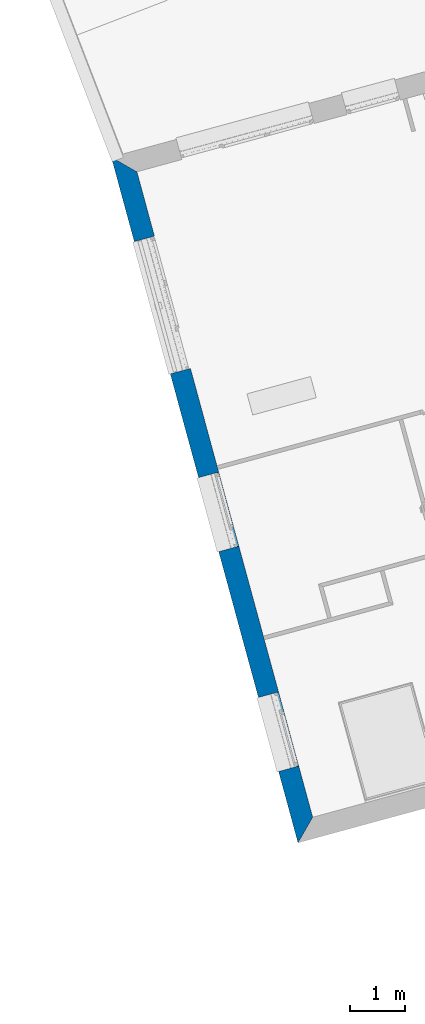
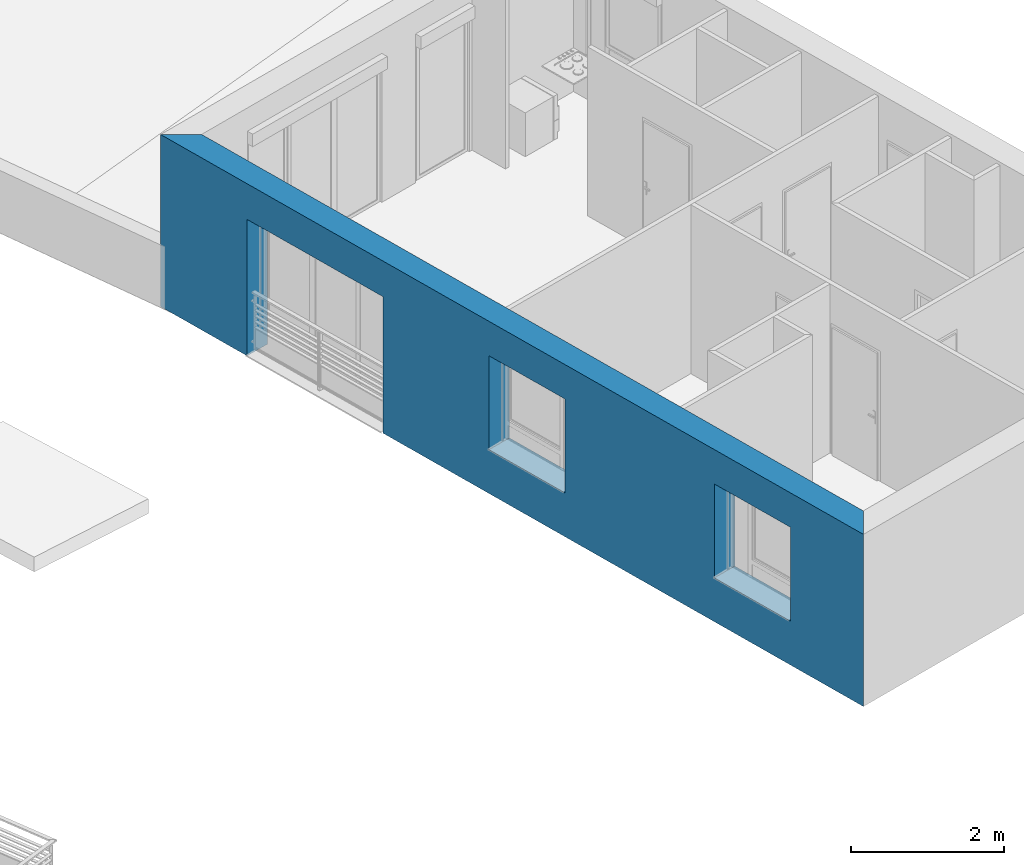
# One storey, part 61 of 121: 1 wall, 3 openings.
"""IFC2X3 building model written with IfcOpenShell, lengths in metres."""

from ifc_helpers import new_model, entity, si_unit, converted_unit, derived_unit, money_unit, direction, frame, origin_with_axes, place, context, subcontext, project, spatial, polyline, outline, extrude, faceted_brep, material, layer, layer_set, layer_usage, type_object, element, save


model = new_model("IFC2X3")

# Units and contexts
model_context = context("Model", 3, precision=1e-05, world=origin_with_axes(), true_north=direction((0.0, 1.0)))
body_context = subcontext(model_context, "Body", "Model", "MODEL_VIEW")
ifc_project = project(units=[si_unit("LENGTHUNIT", "METRE"), si_unit("AREAUNIT", "SQUARE_METRE"), si_unit("VOLUMEUNIT", "CUBIC_METRE"), converted_unit("PLANEANGLEUNIT", "DEGREE", entity("IfcPlaneAngleMeasure", 0.0174532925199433), si_unit("PLANEANGLEUNIT", "RADIAN"), dimensions=[0, 0, 0, 0, 0, 0, 0]), money_unit("CHF"), converted_unit("TIMEUNIT", "Year", entity("IfcTimeMeasure", 31557600.0), si_unit("TIMEUNIT", "SECOND"), dimensions=[0, 0, 1, 0, 0, 0, 0]), si_unit("MASSUNIT", "GRAM", prefix="KILO"), si_unit("THERMODYNAMICTEMPERATUREUNIT", "DEGREE_CELSIUS"), si_unit("LUMINOUSINTENSITYUNIT", "LUMEN"), si_unit("ENERGYUNIT", "JOULE", prefix="MEGA"), derived_unit("THERMALCONDUCTANCEUNIT", [(si_unit("POWERUNIT", "WATT"), 1), (si_unit("LENGTHUNIT", "METRE"), -1), (si_unit("THERMODYNAMICTEMPERATUREUNIT", "KELVIN"), -1)]), derived_unit("SPECIFICHEATCAPACITYUNIT", [(si_unit("ENERGYUNIT", "JOULE"), 1), (si_unit("MASSUNIT", "GRAM", prefix="KILO"), -1), (si_unit("THERMODYNAMICTEMPERATUREUNIT", "KELVIN"), -1)]), derived_unit("MASSDENSITYUNIT", [(si_unit("MASSUNIT", "GRAM", prefix="KILO"), 1), (si_unit("VOLUMEUNIT", "CUBIC_METRE"), -1)])], contexts=[model_context])

# Site, building, storey
site_placement = place(None, origin_with_axes())
site = spatial("IfcSite", under=ifc_project, at=site_placement, Name="Site", CompositionType="ELEMENT")
building_placement = place(site_placement, origin_with_axes())
building = spatial("IfcBuilding", under=site, at=building_placement, Name="Bâtiment", CompositionType="ELEMENT")
storey_placement = place(building_placement, frame((0.0, 0.0, 2.75), z_axis=(0.0, 0.0, 1.0), x_axis=(1.0, 0.0, 0.0)))
storey = spatial("IfcBuildingStorey", under=building, at=storey_placement, Name="Etage 1", CompositionType="ELEMENT", Elevation=2.75)

# Wall, openings
ifc_material_1 = material(Name="Parpaing 312445824")
ifc_layer_1 = layer(ifc_material_1, 0.22, ventilated="UNKNOWN")
ifc_material_2 = material(Name="Isolant styromousse 301821074")
ifc_layer_2 = layer(ifc_material_2, 0.16, ventilated="UNKNOWN")
ifc_layer_set = layer_set([ifc_layer_1, ifc_layer_2], Name="isol int 22+16 0836643197")
ifc_layer_usage = layer_usage(ifc_layer_set, "AXIS2", "NEGATIVE", 0.0)
wall_type = type_object("IfcWallType", Name="isol int 22+16 0836643197 380", PredefinedType="NOTDEFINED")
wall_placement = place(storey_placement, frame((9589.740388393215, -1059.429674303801, 57.7), z_axis=(0.0, 0.0, 1.0), x_axis=(-0.2627340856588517, 0.9648682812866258, 0.0)))
wall = element("IfcWallStandardCase", 1, at=wall_placement, inside=storey, type_object=wall_type, material=ifc_layer_usage, Name="Mur-113", context=body_context, shape_type="SweptSolid", body=[
    extrude(outline(polyline([(0.3800000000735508, -0.3800000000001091), (12.5772734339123, -0.3800000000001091), (12.95727343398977, 0.0), (0.0, 0.0), (0.3800000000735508, -0.3800000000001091)])), origin_with_axes(), (0.0, 0.0, 1.0), 2.75),
])
opening_1_placement = place(wall_placement, frame((6.202420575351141, 0.0, 0.7000000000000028), z_axis=(0.0, 0.0, 1.0), x_axis=(1.0, 0.0, 0.0)))
element("IfcOpeningElement", 2, at=opening_1_placement, cuts=wall, Name="Fen-045", context=body_context, shape_type="Brep", body=[
    faceted_brep([(0.6999999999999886, -0.4800000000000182, 1.5), (-0.6999999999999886, -0.4800000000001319, 1.5), (-0.6999999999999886, -3.665717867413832, 1.5), (0.6999999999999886, -3.665717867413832, 1.5), (0.6999999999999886, -0.4800000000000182, 1.700000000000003), (-0.6999999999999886, -0.4800000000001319, 1.700000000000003), (-0.6999999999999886, -0.3000000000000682, 1.5), (-0.6999999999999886, -0.3000000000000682, 0.0), (-0.6999999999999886, -3.665717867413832, 0.0), (0.6999999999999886, -3.665717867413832, 0.0), (0.6999999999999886, -0.3000000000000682, 1.5), (0.6999999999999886, -0.3000000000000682, 0.0), (0.6999999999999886, -0.2200000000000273, 1.5), (0.6999999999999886, -0.2200000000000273, 1.700000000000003), (-0.6999999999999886, -0.2200000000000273, 1.700000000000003), (-0.6999999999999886, -0.2200000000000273, 1.5), (-0.6999999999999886, 3.285717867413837, 1.5), (-0.6999999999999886, 3.285717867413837, 0.0), (0.6999999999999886, 3.285717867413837, 0.0), (0.6999999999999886, 3.285717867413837, 1.5)], [[[0, 1, 2, 3]], [[1, 0, 4, 5]], [[1, 6, 7, 8, 2]], [[2, 8, 9, 3]], [[10, 0, 3, 9, 11]], [[0, 10, 12, 13, 4]], [[14, 5, 4, 13]], [[6, 1, 5, 14, 15]], [[6, 15, 16, 17, 7]], [[7, 11, 9, 8]], [[12, 10, 11, 18, 19]], [[12, 15, 14, 13]], [[15, 12, 19, 16]], [[19, 18, 17, 16]], [[11, 7, 17, 18]]]),
])
opening_2_placement = place(wall_placement, frame((2.047784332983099, 0.0, 0.7000000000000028), z_axis=(0.0, 0.0, 1.0), x_axis=(1.0, 0.0, 0.0)))
element("IfcOpeningElement", 3, at=opening_2_placement, cuts=wall, Name="Fen-045", context=body_context, shape_type="Brep", body=[
    faceted_brep([(0.6999999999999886, -0.4800000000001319, 1.5), (-0.7000000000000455, -0.4800000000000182, 1.5), (-0.7000000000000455, -3.665717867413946, 1.5), (0.6999999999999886, -3.665717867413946, 1.5), (0.6999999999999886, -0.4800000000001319, 1.700000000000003), (-0.7000000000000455, -0.4800000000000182, 1.700000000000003), (-0.7000000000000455, -0.3000000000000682, 1.5), (-0.6999999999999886, -0.3000000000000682, 0.0), (-0.7000000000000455, -3.665717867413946, 0.0), (0.6999999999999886, -3.665717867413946, 0.0), (0.6999999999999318, -0.2999999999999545, 1.5), (0.6999999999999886, -0.2999999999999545, 0.0), (0.6999999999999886, -0.2200000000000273, 1.5), (0.6999999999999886, -0.2200000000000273, 1.700000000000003), (-0.7000000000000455, -0.2200000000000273, 1.700000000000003), (-0.7000000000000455, -0.2200000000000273, 1.5), (-0.7000000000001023, 3.285717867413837, 1.5), (-0.7000000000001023, 3.285717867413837, 0.0), (0.6999999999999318, 3.285717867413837, 0.0), (0.6999999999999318, 3.285717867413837, 1.5)], [[[0, 1, 2, 3]], [[1, 0, 4, 5]], [[1, 6, 7, 8, 2]], [[2, 8, 9, 3]], [[10, 0, 3, 9, 11]], [[0, 10, 12, 13, 4]], [[4, 13, 14, 5]], [[6, 1, 5, 14, 15]], [[6, 15, 16, 17, 7]], [[7, 11, 9, 8]], [[12, 10, 11, 18, 19]], [[12, 15, 14, 13]], [[15, 12, 19, 16]], [[19, 18, 17, 16]], [[11, 7, 17, 18]]]),
])
opening_3_placement = place(wall_placement, frame((10.11101537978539, 0.0, 0.0), z_axis=(0.0, 0.0, 1.0), x_axis=(1.0, 0.0, 0.0)))
element("IfcOpeningElement", 4, at=opening_3_placement, cuts=wall, Name="Fen-045", context=body_context, shape_type="Brep", body=[
    faceted_brep([(1.249999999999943, -0.4800000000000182, 2.18), (-1.250000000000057, -0.4800000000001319, 2.18), (-1.250000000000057, -3.665717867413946, 2.18), (1.25, -3.665717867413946, 2.18), (1.249999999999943, -0.4800000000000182, 2.380000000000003), (-1.250000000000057, -0.4800000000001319, 2.380000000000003), (-1.25, -0.2999999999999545, 2.18), (-1.25, -0.2999999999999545, 0.0), (-1.250000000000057, -3.665717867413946, 0.0), (1.25, -3.665717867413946, 0.0), (1.249999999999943, -0.3000000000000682, 2.18), (1.25, -0.3000000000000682, 0.0), (1.249999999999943, -0.2200000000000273, 2.18), (1.249999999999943, -0.2200000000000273, 2.380000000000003), (-1.25, -0.2200000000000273, 2.380000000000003), (-1.25, -0.2200000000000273, 2.18), (-1.250000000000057, 3.285717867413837, 2.18), (-1.250000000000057, 3.285717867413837, 0.0), (1.249999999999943, 3.285717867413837, 0.0), (1.249999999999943, 3.285717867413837, 2.18)], [[[0, 1, 2, 3]], [[1, 0, 4, 5]], [[1, 6, 7, 8, 2]], [[2, 8, 9, 3]], [[10, 0, 3, 9, 11]], [[0, 10, 12, 13, 4]], [[14, 5, 4, 13]], [[6, 1, 5, 14, 15]], [[6, 15, 16, 17, 7]], [[7, 11, 9, 8]], [[12, 10, 11, 18, 19]], [[12, 15, 14, 13]], [[15, 12, 19, 16]], [[19, 18, 17, 16]], [[11, 7, 17, 18]]]),
])

save(model, "model.ifc")
